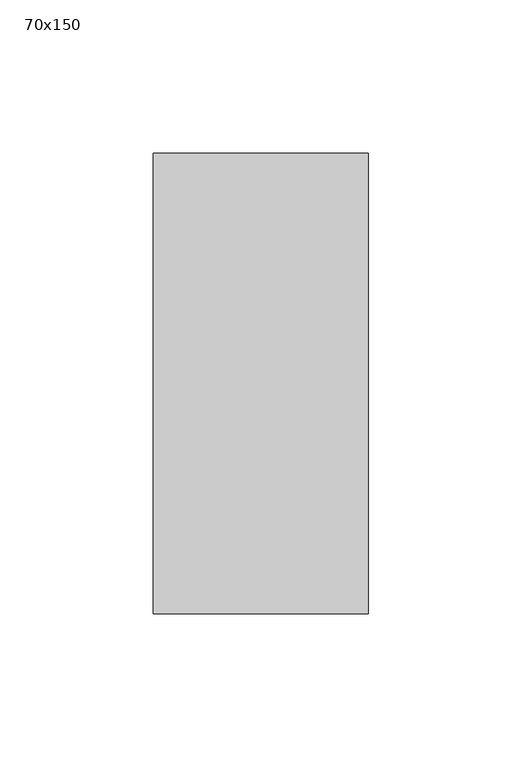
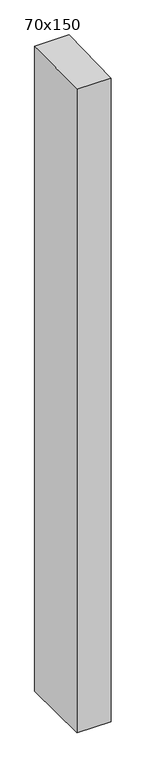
"""IFC4 building model written with IfcOpenShell, lengths in millimetres: member geometry, 長方形のマリオン : 70x150."""

from ifc_helpers import new_model, si_unit, frame, origin, place, context, project, spatial, polyline, outline, extrude, source, transform, mapped, element, save


def member_70x150_36418c2b(model_context):
    return source(origin(), model_context, "Body", "SweptSolid", [
        extrude(outline(polyline([(-75.0, -1.3892003), (75.0, 1.3892003), (75.0, -1395.6308999), (-75.0, -1395.2323715), (-75.0, -1.3892003)])), frame((-70.0, 0.0, 0.0), z_axis=(1.0, 0.0, 0.0), x_axis=(0.0, 1.0, 0.0)), (0.0, 0.0, 1.0), 70.0),
    ])


if __name__ == "__main__":
    model = new_model("IFC4")
    model_context = context("Model", 3, world=origin())
    ifc_project = project(units=[si_unit("LENGTHUNIT", "METRE", prefix="MILLI")], contexts=[model_context])
    site = spatial("IfcSite", under=ifc_project)
    building = spatial("IfcBuilding", under=site)
    placement = place(None, origin())
    member_70x150_shape = member_70x150_36418c2b(model_context)
    element("IfcMember", 1, ObjectType="長方形のマリオン : 70x150", at=placement, inside=building, context=model_context, shape_type="MappedRepresentation", body=[
        mapped(member_70x150_shape, transform((0.0, 0.0, 0.0), x_axis=(1.0, 0.0, 0.0), y_axis=(0.0, 1.0, 0.0), z_axis=(0.0, 0.0, 1.0))),
    ])
    save(model, "model.ifc")
